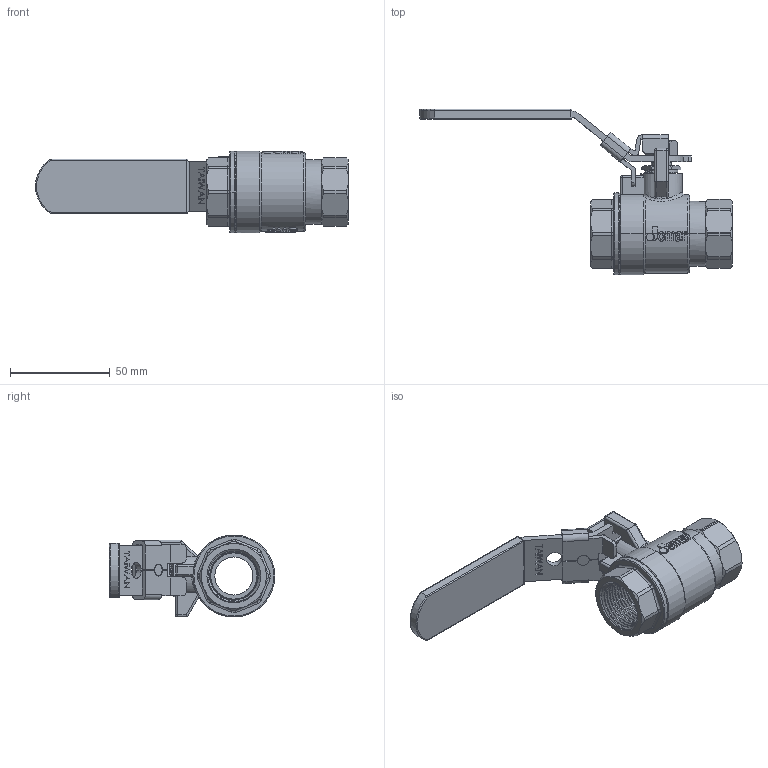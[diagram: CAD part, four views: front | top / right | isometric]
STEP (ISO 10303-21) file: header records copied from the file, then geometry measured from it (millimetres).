
FILE_DESCRIPTION (( 'STEP AP203' ), '1' );
FILE_NAME ('ABL744-無鉛有掛鎖-0.75''''JOMAR球閥體-牙口組合-無鉛無插溝.STEP', '2025-12-15T07:47:23', ( '' ), ( '' ), 'SwSTEP 2.0', 'SolidWorks 2018', '' );
FILE_SCHEMA (( 'CONFIG_CONTROL_DESIGN' ));
Length unit declared in the file: millimetre
Products named in the file (14): BBL704A-0.75''''JOMAR球閥八角頭-無鉛無插溝; DN20-CBL215; EBL205A; RBL264; DN20-掛鎖; ABL744-無鉛有掛鎖-0.75''''JOMAR球閥體-牙口組合-無鉛無插溝; TBL264A; DN20-CBL744-掛鎖把手組合; GBL205 (組裝); NBL265; BBL704-0.75''''JOMAR球閥體-無鉛無插溝; EBL205B; DN20 & DN25-CBL744-白色膠套-T&G-200CSSG-LH; EBL104
Assembly tree (14 placements, depth 3):
  ABL744-無鉛有掛鎖-0.75''''JOMAR球閥體-牙口組合-無鉛無插溝
    BBL704-0.75''''JOMAR球閥體-無鉛無插溝
    RBL264
    EBL205A
    EBL205B
    GBL205 (組裝)
    TBL264A
    BBL704A-0.75''''JOMAR球閥八角頭-無鉛無插溝
    EBL104  x2
    NBL265
    DN20-CBL744-掛鎖把手組合
      DN20-CBL215
      DN20-掛鎖
    DN20 & DN25-CBL744-白色膠套-T&G-200CSSG-LH
Bounding box: 156.6 x 82.91 x 41 mm (x, y, z)
Volume: 69537.9 mm3; surface area: 57623.5 mm2
Topology: 13 solids, 13 shells, 2380 faces, 6374 edges, 4193 vertices
Faces by surface type: plane 1264, bspline 659, cylinder 285, cone 128, torus 26, sphere 18
Entity records: 122829 total; most frequent: CARTESIAN_POINT 67332, ORIENTED_EDGE 12668, DIRECTION 8559, EDGE_CURVE 6334, VERTEX_POINT 4175, LINE 3949, VECTOR 3949, EDGE_LOOP 2579
